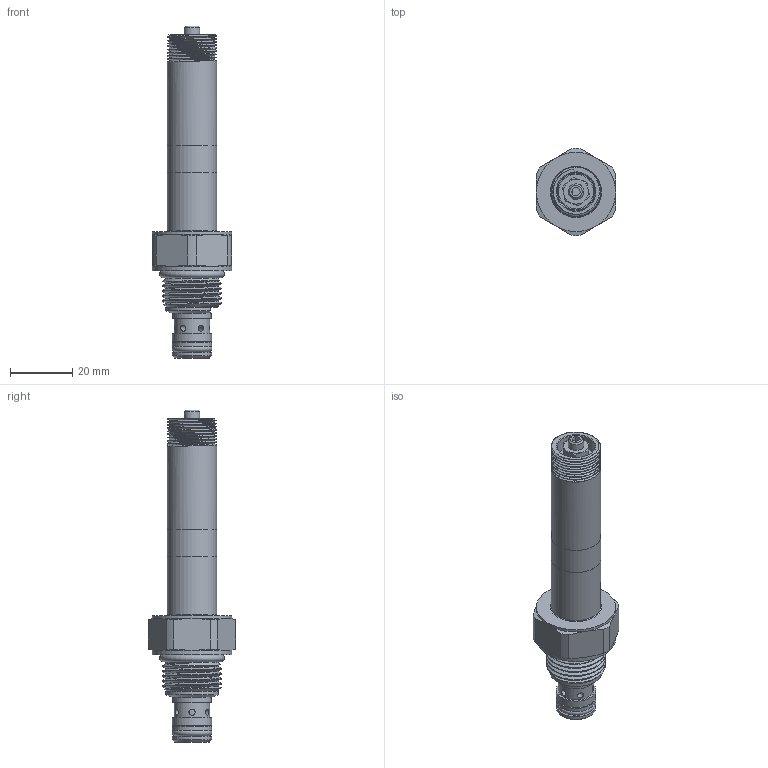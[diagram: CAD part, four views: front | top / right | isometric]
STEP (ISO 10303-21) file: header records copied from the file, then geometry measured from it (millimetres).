
FILE_DESCRIPTION(/* description */ ('','CAx-IF Rec.Pracs.---Representation and Presentation of Product Manufacturing Information (PMI)---4.0---2014-10-13'),/* implementation_level */ '2;1');
FILE_NAME(/* name */ 'P:\EARS\EAR16xx\EAR1683 - catalog pages changes\Group3_Distribution_1_18_23\RTeck Agency_Tom_UNSENT\_step files\EPBRBA00.stp',/* time_stamp */ '2023-01-26T07:17:29-06:00',/* author */ ('Michael'),/* organization */ (''),/* preprocessor_version */ 'ST-DEVELOPER v17.2',/* originating_system */ 'Autodesk Inventor 2019',/* authorisation */ '');
FILE_SCHEMA (('AP242_MANAGED_MODEL_BASED_3D_ENGINEERING_MIM_LF { 1 0 10303 442 1 1 4 }'));
Length unit declared in the file: inch
Products named in the file (1): EPBRBA00
Bounding box: 25.4 x 27.93 x 106.49 mm (x, y, z)
Volume: 23830.7 mm3; surface area: 8670.6 mm2
Topology: 2 solids, 5 shells, 159 faces, 390 edges, 259 vertices
Faces by surface type: cylinder 54, plane 51, cone 34, bspline 11, torus 9
Full cylindrical faces by diameter (mm): 1.981 x6, 4.978 x1, 5 x2, 9.868 x2, 9.906 x1, 11.125 x1, 11.379 x1, 12.192 x1, 12.497 x1, 12.598 x1, 12.624 x2, 15.85 x9, 15.9 x1, 16.764 x2, 19.05 x3, 25.4 x2
Entity records: 11876 total; most frequent: CARTESIAN_POINT 8039, ORIENTED_EDGE 782, DIRECTION 726, EDGE_CURVE 391, AXIS2_PLACEMENT_3D 316, VERTEX_POINT 261, EDGE_LOOP 185, CIRCLE 161
